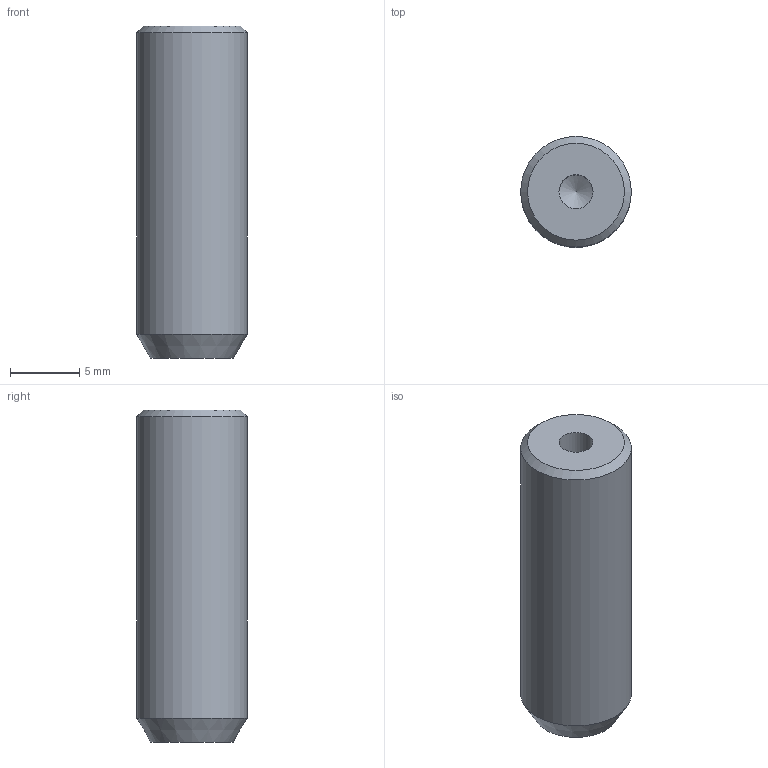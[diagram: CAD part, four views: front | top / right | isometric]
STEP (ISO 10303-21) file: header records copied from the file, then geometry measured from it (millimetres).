
FILE_DESCRIPTION(/* description */ ('Guide Rod'),/* implementation_level */ '2;1');
FILE_NAME(/* name */ 'ITPT.03.00.004.stp',/* time_stamp */ '2025-02-12T14:41:21+01:00',/* author */ ('Rüdiger Widera'),/* organization */ (''),/* preprocessor_version */ 'ST-DEVELOPER v19.2',/* originating_system */ 'Autodesk Inventor 2024',/* authorisation */ '');
FILE_SCHEMA (('AUTOMOTIVE_DESIGN { 1 0 10303 214 3 1 1 }'));
Length unit declared in the file: millimetre
Products named in the file (1): ITPT.03.00.004
Bounding box: 8 x 8 x 24 mm (x, y, z)
Volume: 1134.7 mm3; surface area: 752.5 mm2
Topology: 1 solids, 1 shells, 7 faces, 14 edges, 9 vertices
Faces by surface type: cone 3, cylinder 2, plane 2
Full cylindrical faces by diameter (mm): 2.459 x1, 8 x1
Entity records: 226 total; most frequent: DIRECTION 37, CARTESIAN_POINT 30, ORIENTED_EDGE 26, AXIS2_PLACEMENT_3D 16, EDGE_CURVE 13, VERTEX_POINT 9, EDGE_LOOP 8, CIRCLE 8
